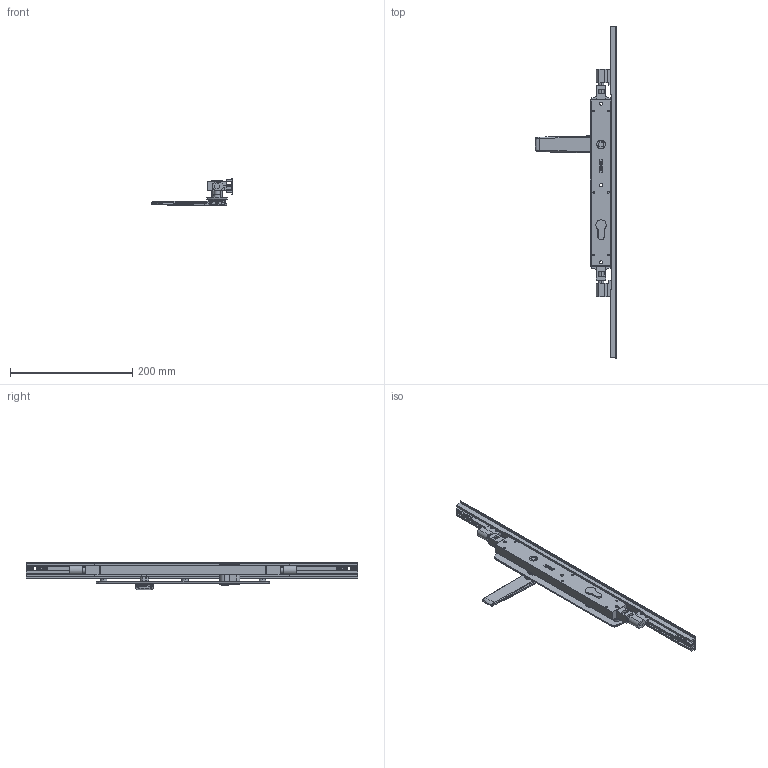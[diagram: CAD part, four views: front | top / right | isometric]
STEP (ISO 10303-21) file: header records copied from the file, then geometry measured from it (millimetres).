
FILE_DESCRIPTION (( 'STEP AP214' ), '1' );
FILE_NAME ('TPL-W-EU-618-U 06Nov2024.STEP', '2024-11-27T04:01:43', ( '' ), ( '' ), 'SwSTEP 2.0', 'SolidWorks 2023', '' );
FILE_SCHEMA (( 'AUTOMOTIVE_DESIGN' ));
Length unit declared in the file: millimetre
Products named in the file (19): Copy of TPLGen2 push rod - simplified^Copy of TPLGen2 lock body keyed assembly_TPL-W-EU-118 04Nov2024_Female thread M10; Copy of TPL-W-EU-130 04Nov2024^TPL-W-EU-118 04Nov2024_TPL-022 Left; Copy of COV-112-C Cover C TPLGen2 Lock body^TPL-W-EU-118 04Nov2024; Copy of Adapter CnE - simplfied^TPL-W-EU-118 04Nov2024_26mm backset; Copy of Copy of LKC-531 Lock twinpoint transmission rod wood system^TPL-W-EU-118 04Nov2024_Standard Range 2891.7mm; Copy of LKC-505 Swing handle zinc - simplified^Copy of TPGen2 handle keyed internal zinc - simplified_TPL-W-EU-118 04Nov2024; TPL-W-EU-618-U 06Nov2024; Copy of LKC-584 Pivot body zinc - simplified^Copy of TPGen2 handle keyed internal zinc - simplified_TPL-W-EU-118 04Nov2024; Copy of TPLGen2 lock body keyed^Copy of TPLGen2 lock body keyed assembly_TPL-W-EU-118 04Nov2024; Copy of LKC-512 Escutcheon plate keyed internal 285mm long zinc - simplified^Copy of TPGen2 handle keyed internal zinc - simplified_TPL-W-EU-118 04Nov2024; Bolt.step; Copy of TPGen2 handle keyed internal zinc - simplified^TPL-W-EU-118 04Nov2024_Right; Copy of TPLGen2 lock body keyed assembly^TPL-W-EU-118 04Nov2024_Bolts retracted; Copy of COV-112-B Cover B suit TPLGen2 standard range^TPL-W-EU-118 04Nov2024_2870mm; Copy of LKC-586 Spindle square 8mm with M4 hole^Copy of TPGen2 handle keyed internal zinc - simplified_TPL-W-EU-118 04Nov2024_25mm; Copy of LKC-531 Lock twinpoint transmission rod wood system^TPL-W-EU-118 04Nov2024_Standard Range (588.7mm); Copy of Adapter DnF - simplfied^TPL-W-EU-118 04Nov2024_26mm backset; Copy of LKC-585 Rotator body zinc^Copy of TPGen2 handle keyed internal zinc - simplified_TPL-W-EU-118 04Nov2024; Copy of COV-112-A Cover A suit TPLGen2 standard range^TPL-W-EU-118 04Nov2024_1335mm
Assembly tree (16 placements, depth 3):
  TPL-W-EU-618-U 06Nov2024
    Copy of TPLGen2 lock body keyed assembly^TPL-W-EU-118 04Nov2024_Bolts retracted
      Copy of TPLGen2 lock body keyed^Copy of TPLGen2 lock body keyed assembly_TPL-W-EU-118 04Nov2024
      Copy of TPLGen2 push rod - simplified^Copy of TPLGen2 lock body keyed assembly_TPL-W-EU-118 04Nov2024_Female thread M10  x2
    Copy of TPGen2 handle keyed internal zinc - simplified^TPL-W-EU-118 04Nov2024_Right
      Copy of LKC-512 Escutcheon plate keyed internal 285mm long zinc - simplified^Copy of TPGen2 handle keyed internal zinc - simplified_TPL-W-EU-118 04Nov2024
      Copy of LKC-505 Swing handle zinc - simplified^Copy of TPGen2 handle keyed internal zinc - simplified_TPL-W-EU-118 04Nov2024
      Copy of LKC-585 Rotator body zinc^Copy of TPGen2 handle keyed internal zinc - simplified_TPL-W-EU-118 04Nov2024
      Copy of LKC-586 Spindle square 8mm with M4 hole^Copy of TPGen2 handle keyed internal zinc - simplified_TPL-W-EU-118 04Nov2024_25mm
      Copy of LKC-584 Pivot body zinc - simplified^Copy of TPGen2 handle keyed internal zinc - simplified_TPL-W-EU-118 04Nov2024
    Copy of TPL-W-EU-130 04Nov2024^TPL-W-EU-118 04Nov2024_TPL-022 Left
    Copy of COV-112-C Cover C TPLGen2 Lock body^TPL-W-EU-118 04Nov2024
    Copy of LKC-531 Lock twinpoint transmission rod wood system^TPL-W-EU-118 04Nov2024_Standard Range (588.7mm)
    Copy of Copy of LKC-531 Lock twinpoint transmission rod wood system^TPL-W-EU-118 04Nov2024_Standard Range 2891.7mm
    Copy of Adapter CnE - simplfied^TPL-W-EU-118 04Nov2024_26mm backset
    Copy of Adapter DnF - simplfied^TPL-W-EU-118 04Nov2024_26mm backset
  Bolt.step
  Copy of COV-112-B Cover B suit TPLGen2 standard range^TPL-W-EU-118 04Nov2024_2870mm
  Copy of COV-112-A Cover A suit TPLGen2 standard range^TPL-W-EU-118 04Nov2024_1335mm
Bounding box: 134.12 x 544 x 45.86 mm (x, y, z)
Volume: 282920.2 mm3; surface area: 139916.2 mm2
Topology: 14 solids, 14 shells, 921 faces, 2293 edges, 1430 vertices
Faces by surface type: plane 325, bspline 241, cylinder 230, cone 71, torus 46, sphere 8
Entity records: 33110 total; most frequent: CARTESIAN_POINT 13052, ORIENTED_EDGE 4394, DIRECTION 3632, EDGE_CURVE 2197, VERTEX_POINT 1370, AXIS2_PLACEMENT_3D 1336, EDGE_LOOP 985, VECTOR 960
